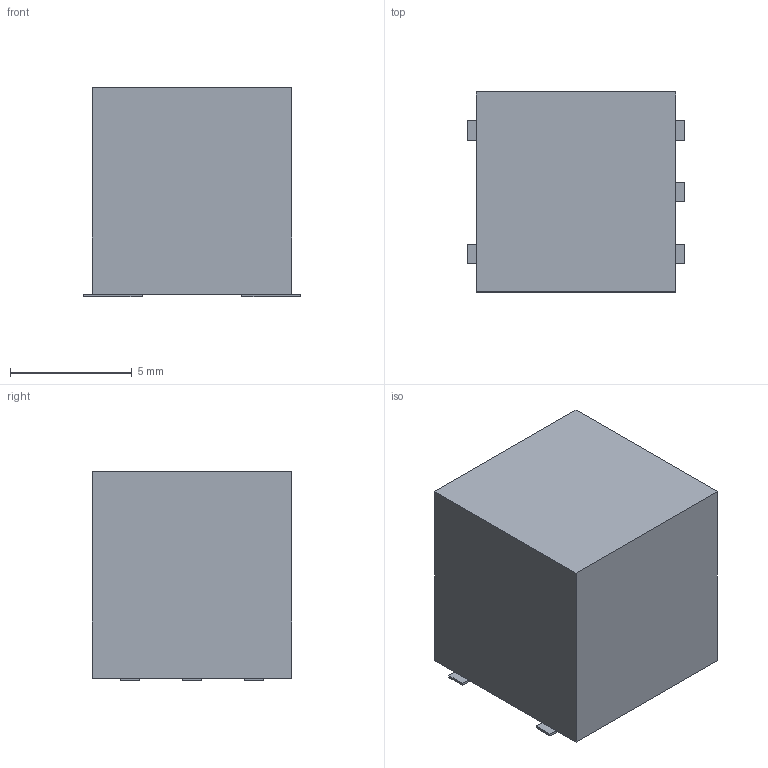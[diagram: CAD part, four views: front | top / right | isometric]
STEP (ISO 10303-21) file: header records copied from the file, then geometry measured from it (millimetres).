
FILE_DESCRIPTION(('FreeCAD Model'),'2;1');
FILE_NAME('/var/www/3D/0T/409728.1.3.stp','2021-08-19T12:30:05',( 'Author'),(''),'Open CASCADE STEP processor 6.9','FreeCAD','Unknown' );
FILE_SCHEMA(('AUTOMOTIVE_DESIGN { 1 0 10303 214 1 1 1 1 }'));
Length unit declared in the file: millimetre
Products named in the file (3): ASSEMBLY; Body; Pins
Assembly tree (2 placements, depth 2):
  ASSEMBLY
    Body
    Pins
Bounding box: 8.9 x 8.2 x 8.6 mm (x, y, z)
Volume: 572.5 mm3; surface area: 435.7 mm2
Topology: 6 solids, 6 shells, 36 faces, 72 edges, 48 vertices
Faces by surface type: plane 36
Entity records: 1946 total; most frequent: CARTESIAN_POINT 303, DIRECTION 294, LINE 216, VECTOR 216, ORIENTED_EDGE 144, PCURVE 144, DEFINITIONAL_REPRESENTATION 144, EDGE_CURVE 72
